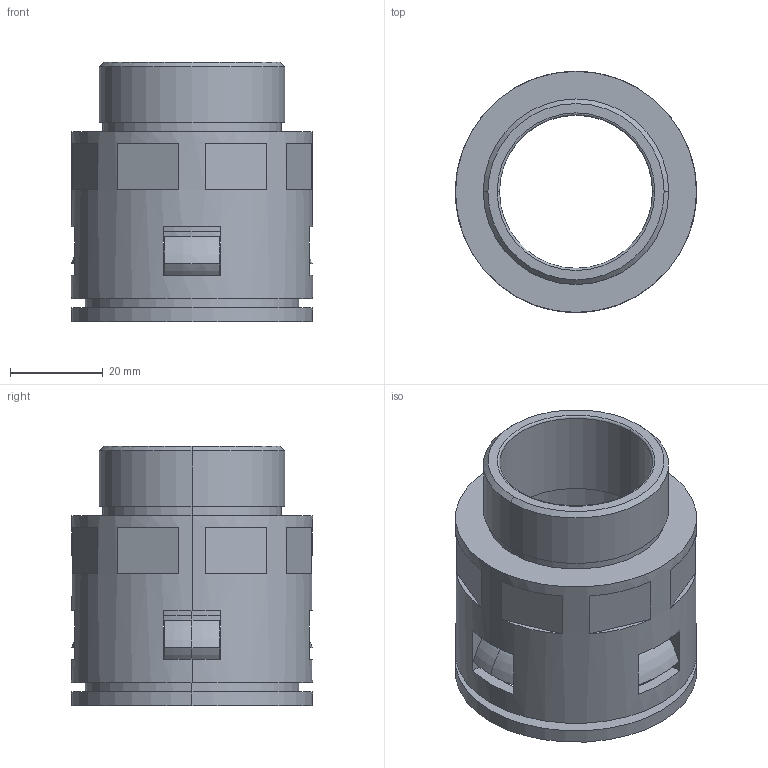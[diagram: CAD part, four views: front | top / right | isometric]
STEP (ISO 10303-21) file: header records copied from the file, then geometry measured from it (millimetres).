
FILE_DESCRIPTION (( 'STEP AP203' ), '1' );
FILE_NAME ('WQG-M40-AD42.5.SLDPRT.STEP', '2012-05-30T04:47:58', ( '迾輿躂瑞' ), ( 'WwW.YlmF.CoM' ), 'SwSTEP 2.0', 'SolidWorks 2010', '' );
FILE_SCHEMA (( 'CONFIG_CONTROL_DESIGN' ));
Length unit declared in the file: millimetre
Products named in the file (3): WQG-M40-AD42.5.SLDPRT; WQG-M40-AD42.5-01; NSK-AD42.5
Assembly tree (2 placements, depth 2):
  WQG-M40-AD42.5.SLDPRT
    NSK-AD42.5
    WQG-M40-AD42.5-01
Bounding box: 52 x 52 x 56 mm (x, y, z)
Volume: 27804.3 mm3; surface area: 25014.3 mm2
Topology: 2 solids, 2 shells, 128 faces, 346 edges, 226 vertices
Faces by surface type: plane 88, cylinder 21, torus 12, cone 7
Entity records: 4557 total; most frequent: CARTESIAN_POINT 897, DIRECTION 738, ORIENTED_EDGE 692, EDGE_CURVE 346, AXIS2_PLACEMENT_3D 283, VERTEX_POINT 226, VECTOR 172, LINE 172
